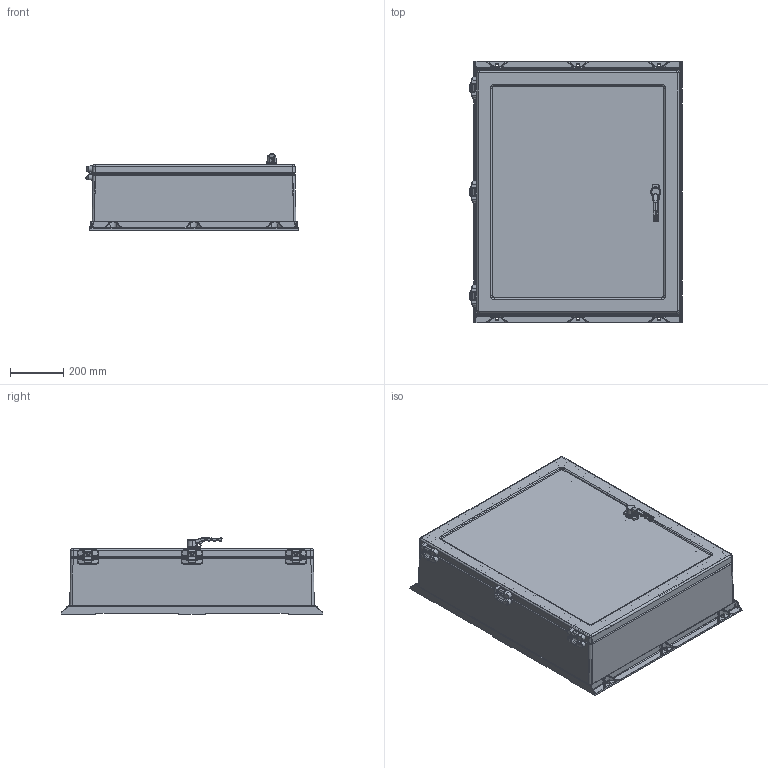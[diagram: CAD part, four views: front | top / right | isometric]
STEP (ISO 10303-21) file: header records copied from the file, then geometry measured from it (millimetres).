
FILE_DESCRIPTION (( 'STEP AP203' ), '1' );
FILE_NAME ('14363.step', '2013-12-09T07:32:44', ( '' ), ( '' ), 'SwSTEP 2.0', 'SolidWorks 2010', '' );
FILE_SCHEMA (( 'CONFIG_CONTROL_DESIGN' ));
Products named in the file (36): 14363; 87926977; 87935470_87935456; 87926953; 87954688_87954688; 87785610; 87949188; 87926984; 87949256; 27301002; 87759496_87759496 DOOR CLOSED; 22293001; 87955618; 22292001; 87955597; 87955576; 14241007_14241007; 87780539; 87780544; 87780542; 87783238; 87783237; 87780548; 87785726; 87786284_87786284; 87785793_87957106; 22101002; 99401515; 26274006_26274006; 26273006_26273006; 30101003; 27115001; 22318002; 27115004; 22101006; 87785592
Assembly tree (52 placements, depth 4):
  14363
    87759496_87759496 DOOR CLOSED  x3
      14241007_14241007
      22292001
        87955597
        87955576  x2
      22293001
        87955576  x2
        87955618
    22101006  x2
    99401515
    87926977
      87954688_87954688  x4
      87926953
      87935470_87935456
    87785726
    26274006_26274006  x2
      30101003
      27115001
      22318002
      26273006_26273006
    27115004  x2
    87785610
      27301002  x2
      87949188
        87949256
        87926984
    87780539
      87780542
      87783237  x2
      87783238
      87780544
      87780548
    87786284_87786284
      30101003
      22318002
      22101002
      87785793_87957106
    87785592
Bounding box: 799.33 x 985.77 x 287.27 mm (x, y, z)
Volume: 10860859.7 mm3; surface area: 5652779.8 mm2
Topology: 65 solids, 65 shells, 3790 faces, 9054 edges, 5499 vertices
Faces by surface type: cylinder 1215, plane 998, bspline 714, torus 534, cone 267, sphere 62
Entity records: 95834 total; most frequent: CARTESIAN_POINT 41271, ORIENTED_EDGE 10998, DIRECTION 9980, EDGE_CURVE 5499, AXIS2_PLACEMENT_3D 3952, VERTEX_POINT 3337, EDGE_LOOP 2496, ADVANCED_FACE 2304
